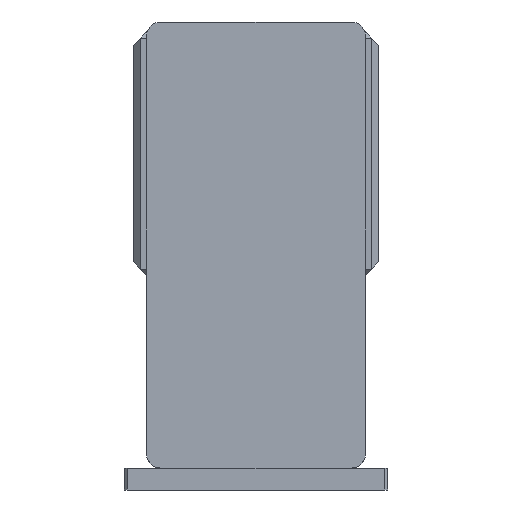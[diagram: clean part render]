
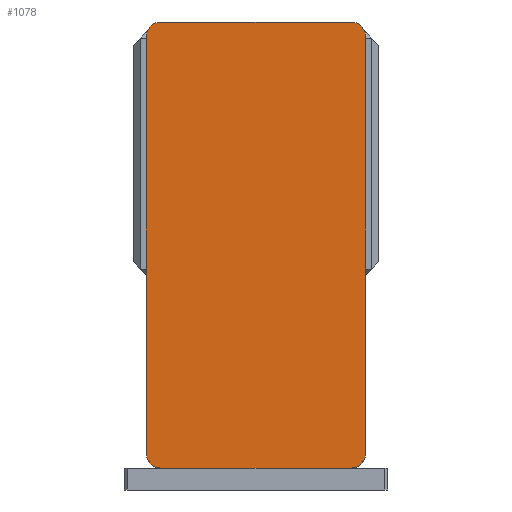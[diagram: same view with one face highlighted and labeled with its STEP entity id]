
A CAD part, left-side view. The second image highlights one B-rep face of the part: STEP entity #1078.
In plain terms, the highlighted planar face has unit normal (-1, 0, 0) as drawn and (0, 0, 1) by its records, which use the part's own axes.
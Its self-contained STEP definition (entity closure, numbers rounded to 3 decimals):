
#63 = DIRECTION ( 'NONE',  ( 0., 0., 1. ) ) ;
#102 = CIRCLE ( 'NONE', #642, 10. ) ;
#108 = LINE ( 'NONE', #4064, #2196 ) ;
#382 = CARTESIAN_POINT ( 'NONE',  ( -75., -152.5, 105. ) ) ;
#546 = EDGE_CURVE ( 'NONE', #1267, #3781, #9077, .T. ) ;
#642 = AXIS2_PLACEMENT_3D ( 'NONE', #2255, #8748, #3182 ) ;
#748 = VECTOR ( 'NONE', #2224, 1000. ) ;
#1078 = ADVANCED_FACE ( 'NONE', ( #2435 ), #10938, .T. ) ;
#1267 = VERTEX_POINT ( 'NONE', #5404 ) ;
#1410 = EDGE_CURVE ( 'NONE', #5005, #1267, #11181, .T. ) ;
#1782 = VERTEX_POINT ( 'NONE', #9962 ) ;
#2196 = VECTOR ( 'NONE', #4972, 1000. ) ;
#2224 = DIRECTION ( 'NONE',  ( 0., 1., 0. ) ) ;
#2255 = CARTESIAN_POINT ( 'NONE',  ( 65., -142.5, 105. ) ) ;
#2435 = FACE_OUTER_BOUND ( 'NONE', #9176, .T. ) ;
#2674 = CARTESIAN_POINT ( 'NONE',  ( 75., -142.5, 105. ) ) ;
#3182 = DIRECTION ( 'NONE',  ( 1., 0., 0. ) ) ;
#3588 = EDGE_CURVE ( 'NONE', #10320, #5005, #9079, .T. ) ;
#3657 = AXIS2_PLACEMENT_3D ( 'NONE', #5468, #63, #6406 ) ;
#3781 = VERTEX_POINT ( 'NONE', #9716 ) ;
#3872 = ORIENTED_EDGE ( 'NONE', *, *, #8721, .T. ) ;
#3929 = AXIS2_PLACEMENT_3D ( 'NONE', #7254, #6990, #7238 ) ;
#4064 = CARTESIAN_POINT ( 'NONE',  ( -75., 152.5, 105. ) ) ;
#4128 = VECTOR ( 'NONE', #8216, 1000. ) ;
#4914 = DIRECTION ( 'NONE',  ( 1., 0., 0. ) ) ;
#4972 = DIRECTION ( 'NONE',  ( -1., 0., 0. ) ) ;
#5005 = VERTEX_POINT ( 'NONE', #8474 ) ;
#5039 = CIRCLE ( 'NONE', #3657, 10. ) ;
#5047 = VERTEX_POINT ( 'NONE', #7435 ) ;
#5404 = CARTESIAN_POINT ( 'NONE',  ( -75., -142.5, 105. ) ) ;
#5468 = CARTESIAN_POINT ( 'NONE',  ( 65., 142.5, 105. ) ) ;
#5494 = AXIS2_PLACEMENT_3D ( 'NONE', #10253, #10299, #10339 ) ;
#5556 = LINE ( 'NONE', #9622, #748 ) ;
#5795 = EDGE_CURVE ( 'NONE', #7413, #9981, #5556, .T. ) ;
#6406 = DIRECTION ( 'NONE',  ( 1., 0., 0. ) ) ;
#6990 = DIRECTION ( 'NONE',  ( 0., 0., 1. ) ) ;
#7046 = ORIENTED_EDGE ( 'NONE', *, *, #8488, .T. ) ;
#7238 = DIRECTION ( 'NONE',  ( 1., 0., 0. ) ) ;
#7254 = CARTESIAN_POINT ( 'NONE',  ( -65., 142.5, 105. ) ) ;
#7413 = VERTEX_POINT ( 'NONE', #2674 ) ;
#7435 = CARTESIAN_POINT ( 'NONE',  ( 65., 152.5, 105. ) ) ;
#7452 = CARTESIAN_POINT ( 'NONE',  ( -75., 152.5, 105. ) ) ;
#7504 = LINE ( 'NONE', #382, #9681 ) ;
#8216 = DIRECTION ( 'NONE',  ( 0., -1., 0. ) ) ;
#8474 = CARTESIAN_POINT ( 'NONE',  ( -75., 142.5, 105. ) ) ;
#8488 = EDGE_CURVE ( 'NONE', #9981, #5047, #5039, .T. ) ;
#8528 = ORIENTED_EDGE ( 'NONE', *, *, #1410, .T. ) ;
#8721 = EDGE_CURVE ( 'NONE', #5047, #10320, #108, .T. ) ;
#8748 = DIRECTION ( 'NONE',  ( 0., 0., 1. ) ) ;
#8965 = ORIENTED_EDGE ( 'NONE', *, *, #5795, .T. ) ;
#9077 = CIRCLE ( 'NONE', #5494, 10. ) ;
#9079 = CIRCLE ( 'NONE', #3929, 10. ) ;
#9176 = EDGE_LOOP ( 'NONE', ( #10651, #9503, #8965, #7046, #3872, #10850, #8528, #9553 ) ) ;
#9264 = CARTESIAN_POINT ( 'NONE',  ( -65., 152.5, 105. ) ) ;
#9503 = ORIENTED_EDGE ( 'NONE', *, *, #9861, .T. ) ;
#9553 = ORIENTED_EDGE ( 'NONE', *, *, #546, .T. ) ;
#9622 = CARTESIAN_POINT ( 'NONE',  ( 75., 152.5, 105. ) ) ;
#9681 = VECTOR ( 'NONE', #4914, 1000. ) ;
#9716 = CARTESIAN_POINT ( 'NONE',  ( -65., -152.5, 105. ) ) ;
#9861 = EDGE_CURVE ( 'NONE', #1782, #7413, #102, .T. ) ;
#9962 = CARTESIAN_POINT ( 'NONE',  ( 65., -152.5, 105. ) ) ;
#9981 = VERTEX_POINT ( 'NONE', #11582 ) ;
#10253 = CARTESIAN_POINT ( 'NONE',  ( -65., -142.5, 105. ) ) ;
#10299 = DIRECTION ( 'NONE',  ( 0., 0., 1. ) ) ;
#10320 = VERTEX_POINT ( 'NONE', #9264 ) ;
#10339 = DIRECTION ( 'NONE',  ( 1., 0., 0. ) ) ;
#10651 = ORIENTED_EDGE ( 'NONE', *, *, #11268, .T. ) ;
#10850 = ORIENTED_EDGE ( 'NONE', *, *, #3588, .T. ) ;
#10871 = CARTESIAN_POINT ( 'NONE',  ( 0., 0., 105. ) ) ;
#10938 = PLANE ( 'NONE',  #11401 ) ;
#11181 = LINE ( 'NONE', #7452, #4128 ) ;
#11268 = EDGE_CURVE ( 'NONE', #3781, #1782, #7504, .T. ) ;
#11401 = AXIS2_PLACEMENT_3D ( 'NONE', #10871, #11630, #11668 ) ;
#11582 = CARTESIAN_POINT ( 'NONE',  ( 75., 142.5, 105. ) ) ;
#11630 = DIRECTION ( 'NONE',  ( 0., 0., 1. ) ) ;
#11668 = DIRECTION ( 'NONE',  ( 1., 0., 0. ) ) ;
